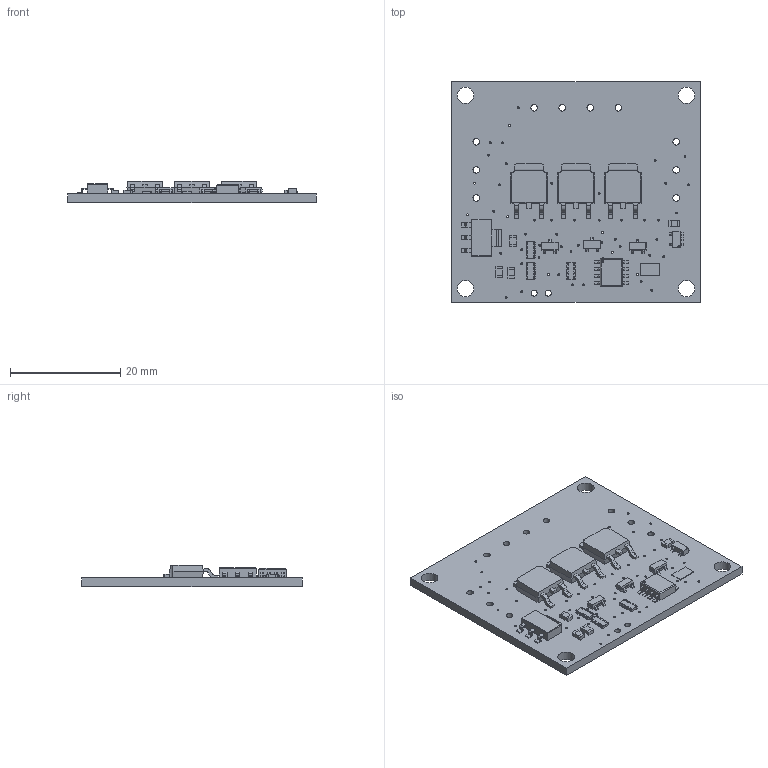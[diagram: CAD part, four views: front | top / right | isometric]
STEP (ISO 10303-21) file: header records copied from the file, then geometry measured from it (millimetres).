
FILE_DESCRIPTION(/* description */ (''),/* implementation_level */ '2;1');
FILE_NAME(/* name */ 'nled-ws2811fet-v1b-unpop.step',/* time_stamp */ '2022-12-02T13:29:48-06:00',/* author */ (''),/* organization */ (''),/* preprocessor_version */ 'ST-DEVELOPER v19.2',/* originating_system */ 'Autodesk Translation Framework v11.17.0.187',/* authorisation */ '');
FILE_SCHEMA (('AUTOMOTIVE_DESIGN { 1 0 10303 214 3 1 1 }'));
Length unit declared in the file: millimetre
Products named in the file (17): nled-ws2811fet-v1b-pnp; Board; Packages; SJ; SOIC-8; SOT-23-5; SOT223; 0603-ARV (1); 0603-ARV (2); W237-133 (1); 0603-ARV; W237-133; W237-4P; MOLEXKK2PWR-SM; DPAK-2PIN; C0805; SOT23
Assembly tree (23 placements, depth 3):
  nled-ws2811fet-v1b-pnp
    Board
    Packages
      SJ
      SOIC-8
      SOT-23-5
      SOT223
      0603-ARV (1)
      0603-ARV (2)
      W237-133 (1)
      0603-ARV
      W237-133
      W237-4P
      MOLEXKK2PWR-SM
      DPAK-2PIN  x3
      C0805  x4
      SOT23  x3
Bounding box: 45 x 40 x 3.92 mm (x, y, z)
Volume: 3236.3 mm3; surface area: 4939 mm2
Topology: 22 solids, 22 shells, 1258 faces, 3409 edges, 2226 vertices
Faces by surface type: plane 842, cylinder 305, bspline 87, sphere 24
Full cylindrical faces by diameter (mm): 0.3 x2, 0.35 x63, 1.1 x2, 1.194 x10, 3 x4
Entity records: 33317 total; most frequent: CARTESIAN_POINT 6583, ORIENTED_EDGE 5470, DIRECTION 5011, EDGE_CURVE 2735, LINE 2031, VECTOR 2031, VERTEX_POINT 1790, AXIS2_PLACEMENT_3D 1490
